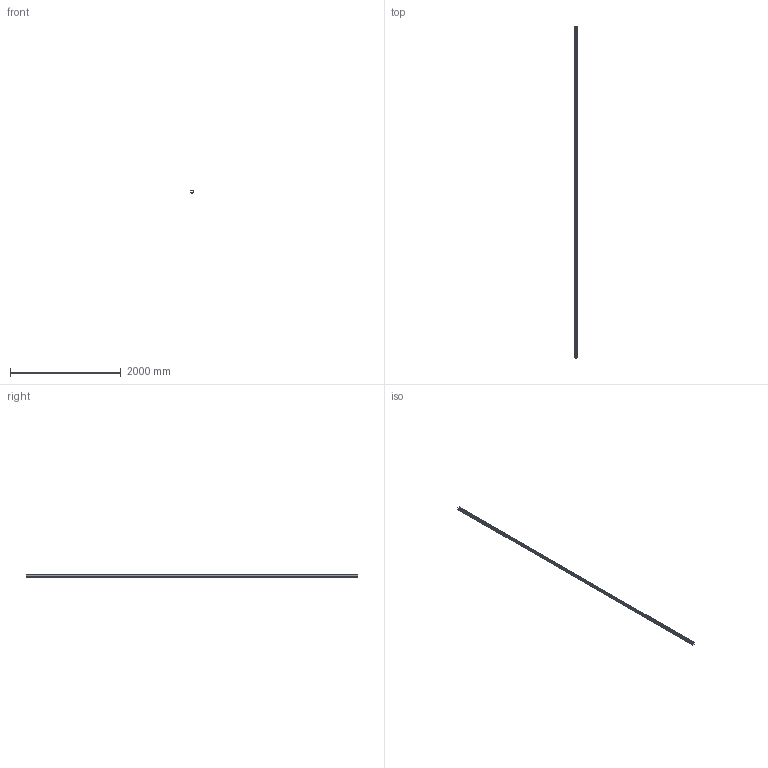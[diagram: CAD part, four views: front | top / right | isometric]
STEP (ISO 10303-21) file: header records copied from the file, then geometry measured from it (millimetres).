
FILE_DESCRIPTION(/* description */ ('Bodenfuehrungsschiene Nr.32'),/* implementation_level */ '2;1');
FILE_NAME(/* name */ 'Q:\sge-ma\Produktmanagement-STB\STB\Workspace\TraceParts\Bodenführungsschiene, feuerverzinkt\010337125.stp',/* time_stamp */ '2018-03-07T11:34:01+01:00',/* author */ ('avschreier'),/* organization */ (''),/* preprocessor_version */ 'ST-DEVELOPER v16.1',/* originating_system */ 'Autodesk Inventor 2016',/* authorisation */ '');
FILE_SCHEMA (('CONFIG_CONTROL_DESIGN'));
Length unit declared in the file: millimetre
Products named in the file (1): 010337125
Bounding box: 40 x 6000 x 41.5 mm (x, y, z)
Volume: 2012868.9 mm3; surface area: 1379291.5 mm2
Topology: 1 solids, 1 shells, 99 faces, 212 edges, 128 vertices
Faces by surface type: plane 35, torus 24, cone 24, cylinder 16
Full cylindrical faces by diameter (mm): 6 x12
Entity records: 2334 total; most frequent: DIRECTION 432, CARTESIAN_POINT 356, ORIENTED_EDGE 280, EDGE_LOOP 196, AXIS2_PLACEMENT_3D 192, EDGE_CURVE 140, VERTEX_POINT 116, FACE_OUTER_BOUND 99
